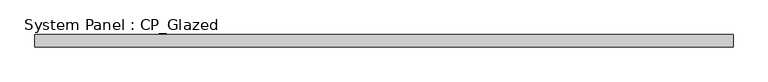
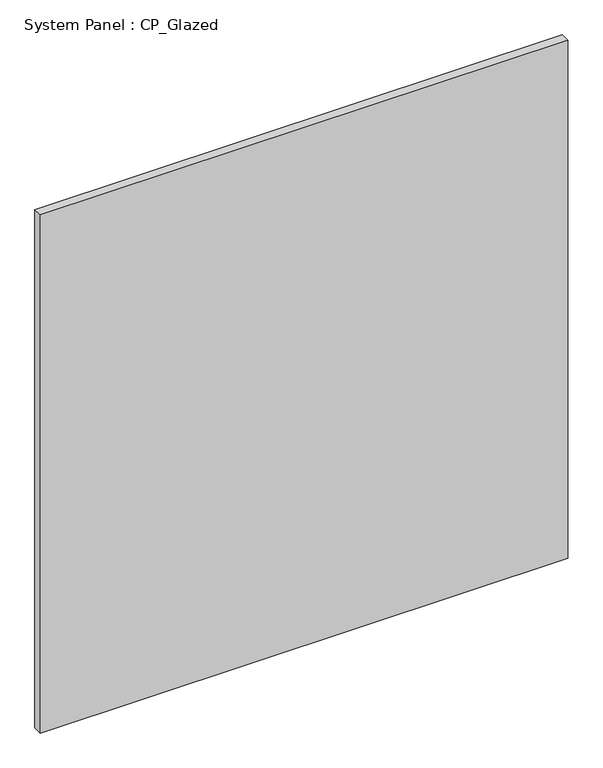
"""IFC4 building model written with IfcOpenShell, lengths in millimetres: plate geometry, System Panel : CP_Glazed."""

from ifc_helpers import new_model, si_unit, origin, origin_with_axes, place, context, project, spatial, polyline, outline, extrude, source, transform, mapped, element, save


def system_panel_cp_glazed_4eafe036(model_context):
    return source(origin(), model_context, "Body", "SweptSolid", [
        extrude(outline(polyline([(710.8264706, -44.45), (-710.8264706, -44.45), (-710.8264706, -19.05), (710.8264706, -19.05), (710.8264706, -44.45)])), origin_with_axes(), (0.0, 0.0, 1.0), 1476.932784),
    ])


if __name__ == "__main__":
    model = new_model("IFC4")
    model_context = context("Model", 3, world=origin())
    ifc_project = project(units=[si_unit("LENGTHUNIT", "METRE", prefix="MILLI")], contexts=[model_context])
    site = spatial("IfcSite", under=ifc_project)
    building = spatial("IfcBuilding", under=site)
    placement = place(None, origin())
    system_panel_cp_glazed_shape = system_panel_cp_glazed_4eafe036(model_context)
    element("IfcPlate", 1, ObjectType="System Panel : CP_Glazed", at=placement, inside=building, context=model_context, shape_type="MappedRepresentation", body=[
        mapped(system_panel_cp_glazed_shape, transform((0.0, 0.0, 0.0), x_axis=(1.0, 0.0, 0.0), y_axis=(0.0, 1.0, 0.0), z_axis=(0.0, 0.0, 1.0))),
    ])
    save(model, "model.ifc")
